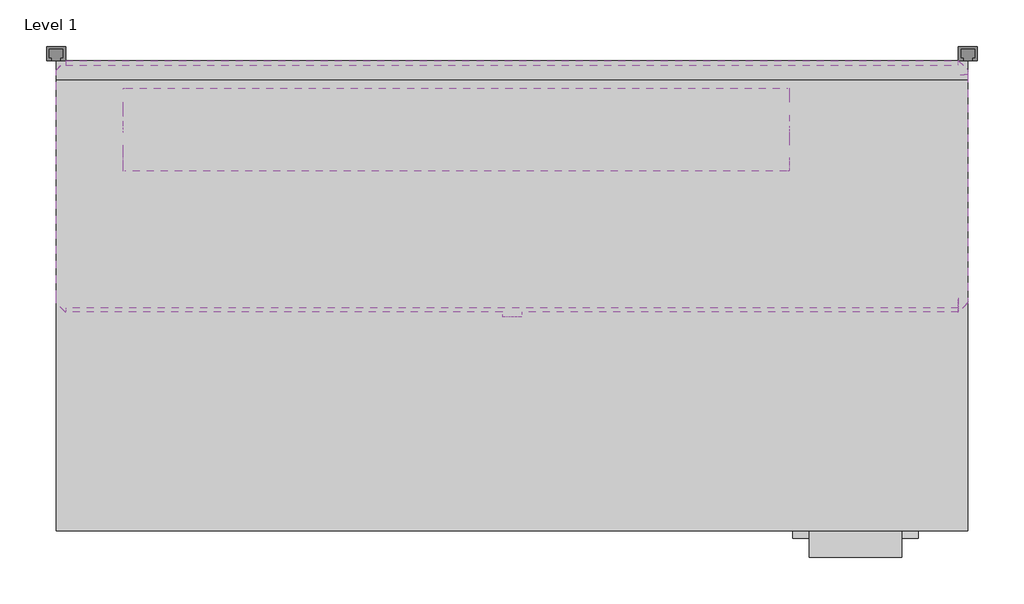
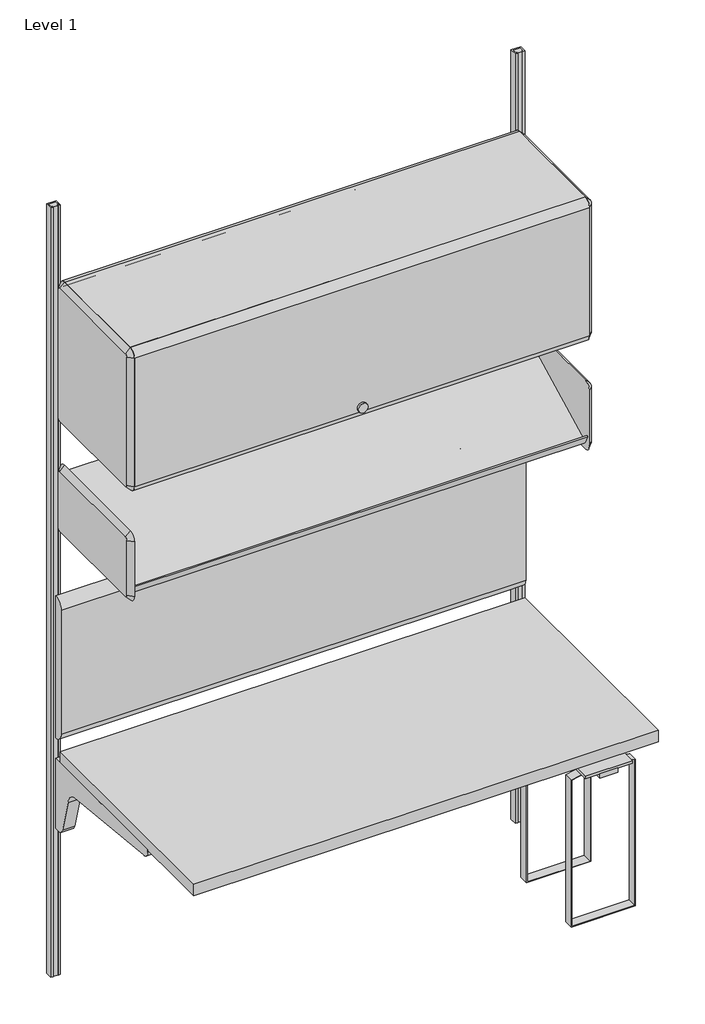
# One storey, incomplete: 7 furniture elements, 1 light fixture.
"""IFC4 building model written with IfcOpenShell, lengths in millimetres."""

from ifc_helpers import new_model, si_unit, origin, place, context, project, spatial, transform, mapped, element, save
from components import furniture_33cd207f, furniture_439dfb7c, furniture_083a197f, furniture_793f8ccc, furniture_ea425779, vertical_72eab502, light_fixture_d29e1486

model = new_model("IFC4")

# Units and contexts
model_context = context("Model", 3, world=origin())
ifc_project = project(units=[si_unit("LENGTHUNIT", "METRE", prefix="MILLI")], contexts=[model_context])

# Site, building, storey
site = spatial("IfcSite", under=ifc_project)
building = spatial("IfcBuilding", under=site)
storey = spatial("IfcBuildingStorey", under=building, Name="Level 1", Elevation=0.0)

# Furniture
placement = place(None, origin())
furniture_shape = furniture_33cd207f(model_context)
element("IfcFurniture", 1, ObjectType="HermanMiller_ActionOffice_A3352_B-StyleFlipperDoorUnit : 15 1/2\"H x 13\"D x 48\"W", at=placement, inside=storey, context=model_context, shape_type="MappedRepresentation", body=[
    mapped(furniture_shape, transform((609.6, -200.025, 0.0), x_axis=(1.0, 0.0, 0.0), y_axis=(0.0, 1.0, 0.0), z_axis=(0.0, 0.0, 1.0))),
])
furniture_2_shape = furniture_439dfb7c(model_context)
element("IfcFurniture", 2, ObjectType="HermanMiller_ActionOffice_A3220_B-StyleStorageDisplay : Display 13\"D x 48\"W", at=placement, inside=storey, context=model_context, shape_type="MappedRepresentation", body=[
    mapped(furniture_2_shape, transform((733.5420045, -200.025, 0.0), x_axis=(1.0, 0.0, 0.0), y_axis=(0.0, 1.0, 0.0), z_axis=(0.0, 0.0, 1.0))),
])
furniture_3_shape = furniture_083a197f(model_context)
element("IfcFurniture", 3, ObjectType="HermanMiller_ActionOffice_A2310_Sq-EdgeRectangularWorkSurface : 24\"D x 48\"W", at=placement, inside=storey, context=model_context, shape_type="MappedRepresentation", body=[
    mapped(furniture_3_shape, transform((609.6, -333.375, 0.0), x_axis=(1.0, 0.0, 0.0), y_axis=(0.0, 1.0, 0.0), z_axis=(0.0, 0.0, 1.0))),
])
furniture_4_shape = furniture_793f8ccc(model_context)
element("IfcFurniture", 4, ObjectType="HermanMiller_ActionOffice_A3410_B-StyleTackboard : 16\"H x 48\"W", at=placement, inside=storey, context=model_context, shape_type="MappedRepresentation", body=[
    mapped(furniture_4_shape, transform((609.6, -31.75, 0.0), x_axis=(1.0, 0.0, 0.0), y_axis=(0.0, 1.0, 0.0), z_axis=(0.0, 0.0, 1.0))),
])
furniture_5_shape = furniture_ea425779(model_context)
element("IfcFurniture", 5, ObjectType="HermanMiller_ActionOffice_AO213_WallStrip : 84\"H", at=placement, inside=storey, context=model_context, shape_type="MappedRepresentation", body=[
    mapped(furniture_5_shape, transform((1219.1590103, 0.0, 0.0), x_axis=(1.0, 0.0, 0.0), y_axis=(0.0, 1.0, 0.0), z_axis=(0.0, 0.0, 1.0))),
])
element("IfcFurniture", 6, ObjectType="HermanMiller_ActionOffice_AO213_WallStrip : 84\"H", at=placement, inside=storey, context=model_context, shape_type="MappedRepresentation", body=[
    mapped(furniture_5_shape, transform((0.0, 0.0, 0.0), x_axis=(1.0, 0.0, 0.0), y_axis=(0.0, 1.0, 0.0), z_axis=(0.0, 0.0, 1.0))),
])
vertical_shape = vertical_72eab502(model_context)
element("IfcFurniture", 7, ObjectType="HermanMiller_ThrivePortfolio_Y7813_CPUHolder : Vertical", at=placement, inside=storey, context=model_context, shape_type="MappedRepresentation", body=[
    mapped(vertical_shape, transform((1068.8332439, -543.51428, 212.725), x_axis=(1.0, 0.0, 0.0), y_axis=(0.0, 1.0, 0.0), z_axis=(0.0, 0.0, 1.0))),
])

# Light fixture
light_fixture_shape = light_fixture_d29e1486(model_context)
element("IfcLightFixture", 8, ObjectType="HermanMiller_SupplementalProducts_G6136_UtilityTaskLight : AO Etho Canvas 42W", at=placement, inside=storey, context=model_context, shape_type="MappedRepresentation", body=[
    mapped(light_fixture_shape, transform((535.04338, -111.125, 0.0), x_axis=(1.0, 0.0, 0.0), y_axis=(0.0, 1.0, 0.0), z_axis=(0.0, 0.0, 1.0))),
])

save(model, "model.ifc")
